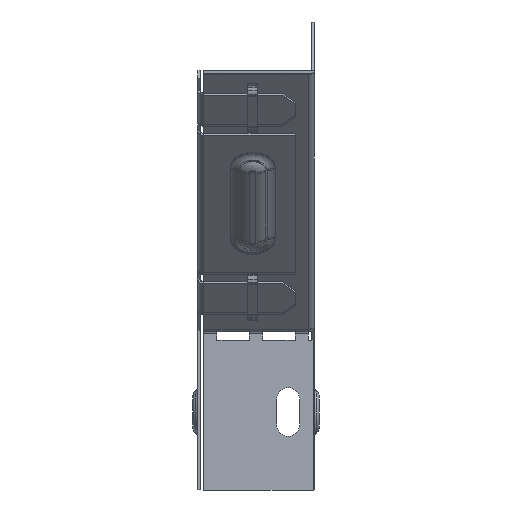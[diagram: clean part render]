
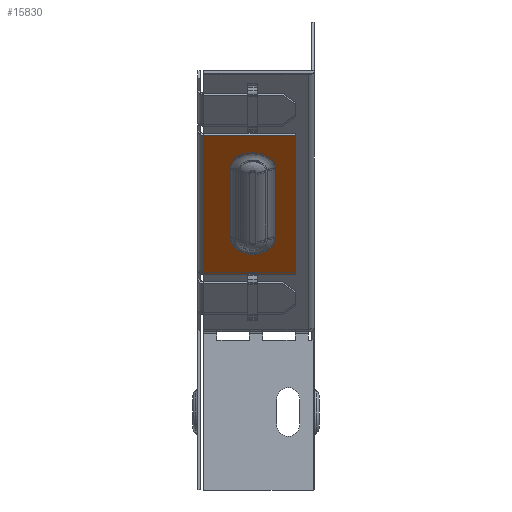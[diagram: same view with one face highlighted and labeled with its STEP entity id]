
A CAD part, left-side view. The second image highlights one B-rep face of the part: STEP entity #15830.
In plain terms, the highlighted planar face has unit normal (-0.707, 0, -0.707).
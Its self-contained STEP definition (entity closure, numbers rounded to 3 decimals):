
#1070 = DIRECTION ( 'NONE',  ( 0.5, -0.707, -0.5 ) ) ;
#1155 = CARTESIAN_POINT ( 'NONE',  ( -129.993, 25.017, -66.685 ) ) ;
#1878 = ORIENTED_EDGE ( 'NONE', *, *, #5781, .T. ) ;
#2259 = CARTESIAN_POINT ( 'NONE',  ( -129.993, 11.183, -66.685 ) ) ;
#2873 = VERTEX_POINT ( 'NONE', #6852 ) ;
#3047 = PLANE ( 'NONE',  #14902 ) ;
#3432 = DIRECTION ( 'NONE',  ( 0.707, 0., -0.707 ) ) ;
#3437 = AXIS2_PLACEMENT_3D ( 'NONE', #16579, #7996, #1070 ) ;
#3565 = LINE ( 'NONE', #2259, #11285 ) ;
#4132 = VERTEX_POINT ( 'NONE', #6994 ) ;
#4199 = VERTEX_POINT ( 'NONE', #18038 ) ;
#4244 = CARTESIAN_POINT ( 'NONE',  ( -151.206, 11.183, -45.472 ) ) ;
#4446 = VECTOR ( 'NONE', #7534, 1000. ) ;
#4531 = ORIENTED_EDGE ( 'NONE', *, *, #8056, .T. ) ;
#4572 = FACE_BOUND ( 'NONE', #8993, .T. ) ;
#4722 = DIRECTION ( 'NONE',  ( 0., -1., 0. ) ) ;
#5362 = CIRCLE ( 'NONE', #14957, 6.917 ) ;
#5781 = EDGE_CURVE ( 'NONE', #5847, #13758, #11230, .T. ) ;
#5847 = VERTEX_POINT ( 'NONE', #16658 ) ;
#6327 = DIRECTION ( 'NONE',  ( 0.5, -0.707, -0.5 ) ) ;
#6703 = CARTESIAN_POINT ( 'NONE',  ( -151.206, 25.017, -45.472 ) ) ;
#6801 = CIRCLE ( 'NONE', #3437, 6.917 ) ;
#6852 = CARTESIAN_POINT ( 'NONE',  ( -119.022, 5., -77.656 ) ) ;
#6977 = VECTOR ( 'NONE', #15427, 1000. ) ;
#6994 = CARTESIAN_POINT ( 'NONE',  ( -119.022, 33.2, -77.656 ) ) ;
#7339 = VERTEX_POINT ( 'NONE', #4244 ) ;
#7534 = DIRECTION ( 'NONE',  ( -0.707, 0., 0.707 ) ) ;
#7591 = CARTESIAN_POINT ( 'NONE',  ( -129.993, 25.017, -66.685 ) ) ;
#7928 = LINE ( 'NONE', #9370, #16922 ) ;
#7996 = DIRECTION ( 'NONE',  ( 0.707, 0., 0.707 ) ) ;
#8056 = EDGE_CURVE ( 'NONE', #4199, #15805, #5362, .T. ) ;
#8435 = EDGE_LOOP ( 'NONE', ( #11094, #8789, #15724, #1878 ) ) ;
#8441 = DIRECTION ( 'NONE',  ( 0.707, 0., 0.707 ) ) ;
#8491 = DIRECTION ( 'NONE',  ( 0.707, 0., -0.707 ) ) ;
#8551 = EDGE_CURVE ( 'NONE', #4132, #2873, #11908, .T. ) ;
#8789 = ORIENTED_EDGE ( 'NONE', *, *, #8551, .T. ) ;
#8993 = EDGE_LOOP ( 'NONE', ( #13143, #4531, #12859, #12142 ) ) ;
#9150 = DIRECTION ( 'NONE',  ( 0.707, 0., 0.707 ) ) ;
#9360 = DIRECTION ( 'NONE',  ( 0., 1., 0. ) ) ;
#9370 = CARTESIAN_POINT ( 'NONE',  ( -90.837, 5., -105.841 ) ) ;
#9738 = CARTESIAN_POINT ( 'NONE',  ( -161.823, 33.2, -34.855 ) ) ;
#9739 = EDGE_CURVE ( 'NONE', #15805, #11994, #13872, .T. ) ;
#9786 = CARTESIAN_POINT ( 'NONE',  ( -178.087, 33.2, -18.591 ) ) ;
#9918 = EDGE_CURVE ( 'NONE', #2873, #5847, #7928, .T. ) ;
#10453 = CARTESIAN_POINT ( 'NONE',  ( -119.022, 5., -77.656 ) ) ;
#10708 = DIRECTION ( 'NONE',  ( -0.707, 0., 0.707 ) ) ;
#11094 = ORIENTED_EDGE ( 'NONE', *, *, #18043, .F. ) ;
#11230 = LINE ( 'NONE', #16296, #14741 ) ;
#11285 = VECTOR ( 'NONE', #3432, 1000. ) ;
#11813 = FACE_OUTER_BOUND ( 'NONE', #8435, .T. ) ;
#11908 = LINE ( 'NONE', #10453, #18049 ) ;
#11994 = VERTEX_POINT ( 'NONE', #6703 ) ;
#12142 = ORIENTED_EDGE ( 'NONE', *, *, #17220, .T. ) ;
#12254 = EDGE_CURVE ( 'NONE', #7339, #4199, #3565, .T. ) ;
#12691 = LINE ( 'NONE', #9786, #6977 ) ;
#12859 = ORIENTED_EDGE ( 'NONE', *, *, #9739, .T. ) ;
#13143 = ORIENTED_EDGE ( 'NONE', *, *, #12254, .T. ) ;
#13758 = VERTEX_POINT ( 'NONE', #9738 ) ;
#13872 = LINE ( 'NONE', #7591, #4446 ) ;
#14741 = VECTOR ( 'NONE', #9360, 1000. ) ;
#14902 = AXIS2_PLACEMENT_3D ( 'NONE', #15484, #8441, #8491 ) ;
#14957 = AXIS2_PLACEMENT_3D ( 'NONE', #16186, #9150, #6327 ) ;
#15427 = DIRECTION ( 'NONE',  ( -0.707, 0., 0.707 ) ) ;
#15484 = CARTESIAN_POINT ( 'NONE',  ( -90.837, 35., -105.841 ) ) ;
#15724 = ORIENTED_EDGE ( 'NONE', *, *, #9918, .T. ) ;
#15805 = VERTEX_POINT ( 'NONE', #1155 ) ;
#15830 = ADVANCED_FACE ( 'NONE', ( #4572, #11813 ), #3047, .F. ) ;
#16186 = CARTESIAN_POINT ( 'NONE',  ( -129.993, 18.1, -66.685 ) ) ;
#16296 = CARTESIAN_POINT ( 'NONE',  ( -161.823, 5., -34.855 ) ) ;
#16579 = CARTESIAN_POINT ( 'NONE',  ( -151.206, 18.1, -45.472 ) ) ;
#16658 = CARTESIAN_POINT ( 'NONE',  ( -161.823, 5., -34.855 ) ) ;
#16922 = VECTOR ( 'NONE', #10708, 1000. ) ;
#17220 = EDGE_CURVE ( 'NONE', #11994, #7339, #6801, .T. ) ;
#18038 = CARTESIAN_POINT ( 'NONE',  ( -129.993, 11.183, -66.685 ) ) ;
#18043 = EDGE_CURVE ( 'NONE', #4132, #13758, #12691, .T. ) ;
#18049 = VECTOR ( 'NONE', #4722, 1000. ) ;
